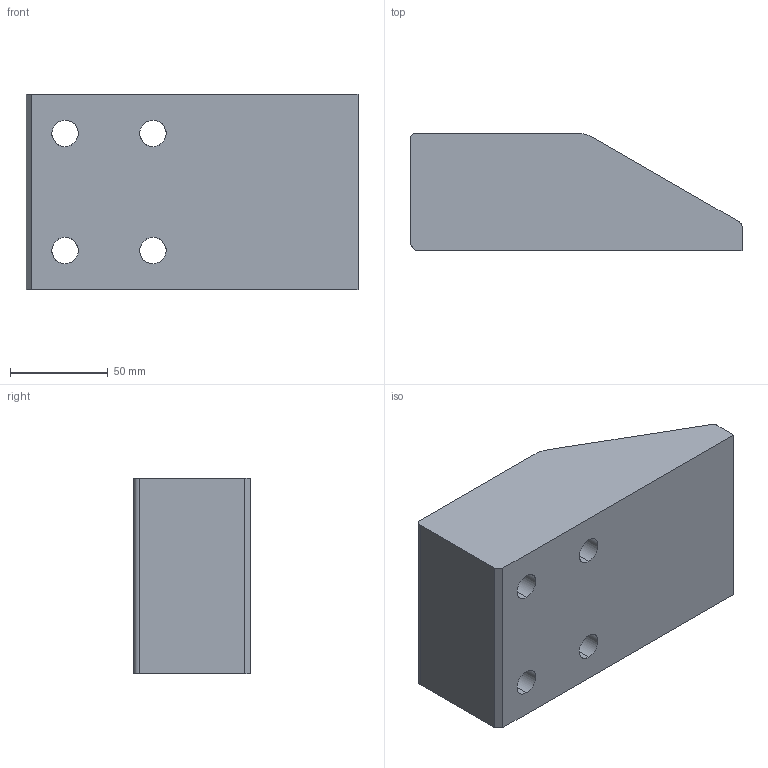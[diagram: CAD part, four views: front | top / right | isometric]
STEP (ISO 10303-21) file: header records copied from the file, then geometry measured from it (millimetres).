
FILE_DESCRIPTION(('CATIA V5 STEP Exchange'),'2;1');
FILE_NAME('C:\Users\Raffaele\Desktop\3D X SITO CF\A935\GSB_OILLESS_G2290110017060\STEP-2.03\A935-10017060.stp','2019-07-12T07:16:08+00:00',('none'),('none'),'CATIA Version 5 Release 20 GA (IN-10)','CATIA V5 STEP AP203','none');
FILE_SCHEMA(('CONFIG_CONTROL_DESIGN'));
Length unit declared in the file: millimetre
Products named in the file (1): A935-10017060
Bounding box: 170 x 60 x 100 mm (x, y, z)
Volume: 768763.1 mm3; surface area: 71353.7 mm2
Topology: 1 solids, 1 shells, 39 faces, 131 edges, 98 vertices
Faces by surface type: cylinder 19, plane 12, torus 8
Entity records: 1691 total; most frequent: CARTESIAN_POINT 493, ORIENTED_EDGE 262, DIRECTION 193, EDGE_CURVE 131, AXIS2_PLACEMENT_3D 118, VERTEX_POINT 98, CIRCLE 78, EDGE_LOOP 51
